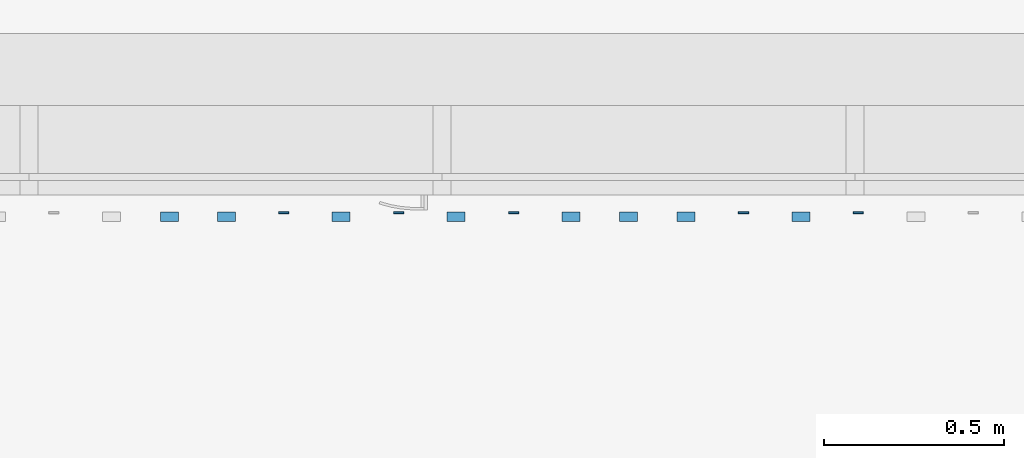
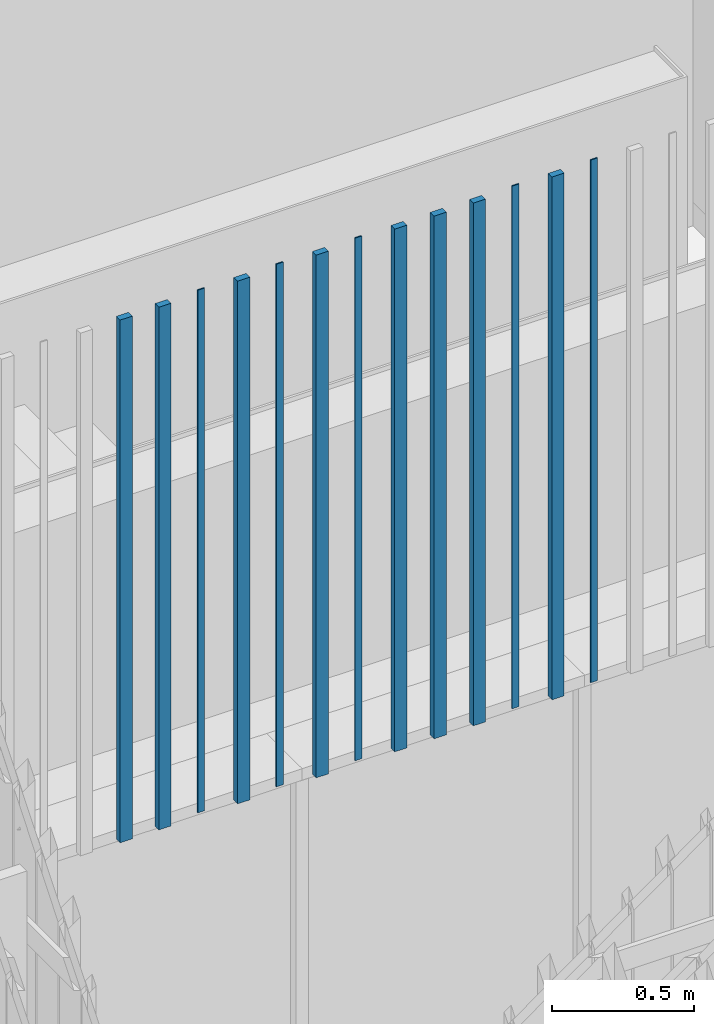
# One storey, part 149 of 390: 13 walls.
"""IFC2X3 building model written with IfcOpenShell, lengths in millimetres."""

import ifcopenshell
import ifcopenshell.guid

model = None  # the IFC model being written
_history = None  # IfcOwnerHistory: only IFC2X3 demands one
_inside = {}  # id of a spatial element -> (the spatial element, [elements in it])
_under = {}  # id of a project, library or spatial element -> (it, [spatial elements below it])
_declared = {}  # id of a project -> (the project, [libraries it declares])
_typed = {}  # id of a type object -> (the type object, [elements of that type])
_made_of = {}  # id of a material, layer set ... -> (it, [elements and type objects made of it])


def new_model(schema):
    """Start an empty IFC model of exactly this schema.

    Asked for "IFC4X3", IfcOpenShell would pick the latest addendum, in which some entities
    have other attributes; the version numbers below select the first issue.
    IFC2X3 requires an IfcOwnerHistory on every rooted entity: one is made here for all.
    """
    global model, _history
    if schema == "IFC4X3":
        model = ifcopenshell.file(schema_version=(4, 3, 0, 0))
    else:
        model = ifcopenshell.file(schema=schema)
    _inside.clear()
    _under.clear()
    _declared.clear()
    _typed.clear()
    _made_of.clear()
    _history = None
    if model.schema == "IFC2X3":
        org = make("IfcOrganization", Name="unknown")
        user = make(
            "IfcPersonAndOrganization",
            ThePerson=make("IfcPerson", FamilyName="unknown"),
            TheOrganization=org,
        )
        app = make(
            "IfcApplication",
            ApplicationDeveloper=org,
            Version="unknown",
            ApplicationFullName="unknown",
            ApplicationIdentifier="unknown",
        )
        _history = make(
            "IfcOwnerHistory",
            OwningUser=user,
            OwningApplication=app,
            ChangeAction="ADDED",
            CreationDate=0,
        )
    return model


def make(cls, **values):
    """One entity of the class cls with the attributes given. An attribute that is None is left unset."""
    return model.create_entity(
        cls, **{name: value for name, value in values.items() if value is not None}
    )


def entity(cls, *values):
    """Any entity or typed value of the class cls, its attributes in the order of the schema. None: left unset."""
    e = model.create_entity(cls)
    for i, value in enumerate(values):
        if value is not None:
            e[i] = value
    return e


def rooted(cls, **values):
    """An entity with a GlobalId (a new one), such as an element, a storey or a relation."""
    return make(cls, GlobalId=ifcopenshell.guid.new(), OwnerHistory=_history, **values)


def si_unit(unit_type, name, prefix=None):
    """IfcSIUnit, for example si_unit("LENGTHUNIT", "METRE", prefix="MILLI")."""
    return make("IfcSIUnit", UnitType=unit_type, Prefix=prefix, Name=name)


def converted_unit(unit_type, name, factor, base, dimensions=None, offset=None):
    """IfcConversionBasedUnit, such as the inch: factor (a typed value) times the base unit."""
    return make(
        "IfcConversionBasedUnit"
        if offset is None
        else "IfcConversionBasedUnitWithOffset",
        ConversionOffset=offset,
        Dimensions=None
        if dimensions is None
        else entity("IfcDimensionalExponents", *dimensions),
        UnitType=unit_type,
        Name=name,
        ConversionFactor=make(
            "IfcMeasureWithUnit", ValueComponent=factor, UnitComponent=base
        ),
    )


def derived_unit(unit_type, elements):
    """IfcDerivedUnit: a product of units, each with its exponent."""
    return make(
        "IfcDerivedUnit",
        Elements=[
            make("IfcDerivedUnitElement", Unit=unit, Exponent=power)
            for unit, power in elements
        ],
        UnitType=unit_type,
    )


def money_unit(currency):
    """IfcMonetaryUnit."""
    return make("IfcMonetaryUnit", Currency=currency)


def assignment(units):
    """IfcUnitAssignment: the units of a project."""
    return None if units is None else make("IfcUnitAssignment", Units=units)


def point(xyz):
    """IfcCartesianPoint."""
    return None if xyz is None else make("IfcCartesianPoint", Coordinates=xyz)


def direction(xyz):
    """IfcDirection."""
    return None if xyz is None else make("IfcDirection", DirectionRatios=xyz)


def frame(location, z_axis=None, x_axis=None):
    """IfcAxis2Placement3D, a coordinate frame: its origin and axes. An axis left out is left unset."""
    return make(
        "IfcAxis2Placement3D",
        Location=point(location),
        Axis=direction(z_axis),
        RefDirection=direction(x_axis),
    )


def origin_with_axes():
    """The frame at (0, 0, 0) with the z axis (0, 0, 1) and the x axis (1, 0, 0) written out."""
    return frame((0.0, 0.0, 0.0), z_axis=(0.0, 0.0, 1.0), x_axis=(1.0, 0.0, 0.0))


def place(relative_to, where):
    """IfcLocalPlacement: puts the frame where relative to a parent placement (None: the world)."""
    return make(
        "IfcLocalPlacement", PlacementRelTo=relative_to, RelativePlacement=where
    )


def context(
    kind, dimensions, precision=None, world=None, true_north=None, identifier=None
):
    """IfcGeometricRepresentationContext, for example the 3D "Model" context."""
    return make(
        "IfcGeometricRepresentationContext",
        ContextIdentifier=identifier,
        ContextType=kind,
        CoordinateSpaceDimension=dimensions,
        Precision=precision,
        WorldCoordinateSystem=world,
        TrueNorth=true_north,
    )


def subcontext(parent, identifier, kind, view, scale=None):
    """IfcGeometricRepresentationSubContext, for example "Body" below "Model"."""
    return make(
        "IfcGeometricRepresentationSubContext",
        ContextIdentifier=identifier,
        ContextType=kind,
        ParentContext=parent,
        TargetScale=scale,
        TargetView=view,
    )


def project(units=None, contexts=None):
    """IfcProject with its units and contexts."""
    return rooted(
        "IfcProject",
        Name="project",
        RepresentationContexts=contexts,
        UnitsInContext=assignment(units),
    )


def spatial(cls, under=None, at=None, **own):
    """A site, building, storey or space (cls), placed at a placement, below another one or the project."""
    s = rooted(cls, ObjectPlacement=at, **own)
    if under is not None:
        _under.setdefault(under.id(), (under, []))[1].append(s)
    return s


def faces_of(points, faces, orient=None, outer=None):
    """IfcFace entities. A face is a list of loops; a loop is a list of indices into points, from 0.

    orient and outer hold one flag for each loop. By default every Orientation is true, the
    first loop of a face is its IfcFaceOuterBound and the others are IfcFaceBound.
    """
    made = []
    for i, loops in enumerate(faces):
        bounds = []
        for j, loop in enumerate(loops):
            is_outer = j == 0 if outer is None else outer[i][j]
            bounds.append(
                make(
                    "IfcFaceOuterBound" if is_outer else "IfcFaceBound",
                    Bound=make("IfcPolyLoop", Polygon=[points[k] for k in loop]),
                    Orientation=True if orient is None else orient[i][j],
                )
            )
        made.append(make("IfcFace", Bounds=bounds))
    return made


def faceted_brep(points, faces, orient=None, outer=None, voids=None):
    """IfcFacetedBrep: a solid bounded by flat faces; with voids (closed shells), ...WithVoids."""
    shared = [point(p) for p in points]
    hull = make("IfcClosedShell", CfsFaces=faces_of(shared, faces, orient, outer))
    if voids is None:
        return make("IfcFacetedBrep", Outer=hull)
    return make(
        "IfcFacetedBrepWithVoids",
        Outer=hull,
        Voids=[
            make(cls, CfsFaces=faces_of(shared, fs, o, b)) for cls, fs, o, b in voids
        ],
    )


def shape(context_of_items, identifier, shape_type, items):
    """IfcShapeRepresentation: the items that make up one representation, for example the "Body"."""
    return make(
        "IfcShapeRepresentation",
        ContextOfItems=context_of_items,
        RepresentationIdentifier=identifier,
        RepresentationType=shape_type,
        Items=items,
    )


def material(Name=None, Category=None):
    """IfcMaterial."""
    return make("IfcMaterial", Name=Name, Category=Category)


def made_of(thing, what):
    """Note that an element or type object is made of a material, layer set ...; save() writes the relation."""
    if what is not None:
        _made_of.setdefault(what.id(), (what, []))[1].append(thing)
    return thing


def type_object(cls, material=None, **own):
    """A type object (cls), such as IfcWallType, which elements share."""
    return made_of(rooted(cls, **own), material)


def element(
    cls,
    number,
    at=None,
    inside=None,
    cuts=None,
    type_object=None,
    material=None,
    context=None,
    identifier="Body",
    shape_type=None,
    held_by="IfcProductDefinitionShape",
    body=None,
    shapes=None,
    **own,
):
    """One element of the class cls, such as IfcWall. Its Tag is "e" and its number.

    at: its placement. inside: the storey or other place that contains it. cuts: it is an
    opening in that element (IfcRelVoidsElement). A single representation is given by context,
    identifier, shape_type and body (its items); several are given by shapes. held_by: the class
    of the entity that holds the representations. save() writes the other relations.
    """
    e = rooted(cls, Tag="e%d" % number, ObjectPlacement=at, **own)
    if body is not None:
        shapes = [shape(context, identifier, shape_type, body)]
    if shapes is not None:
        e.Representation = make(held_by, Representations=shapes)
    if inside is not None:
        _inside.setdefault(inside.id(), (inside, []))[1].append(e)
    if cuts is not None:
        rooted(
            "IfcRelVoidsElement", RelatingBuildingElement=cuts, RelatedOpeningElement=e
        )
    if type_object is not None:
        _typed.setdefault(type_object.id(), (type_object, []))[1].append(e)
    return made_of(e, material)


def aggregate(whole, parts):
    """IfcRelAggregates: a whole, such as a stair, and the parts it consists of."""
    return rooted("IfcRelAggregates", RelatingObject=whole, RelatedObjects=parts)


def save(model, path):
    """Write the relations noted so far, then the file.

    IfcRelAggregates (storeys below a building ...), IfcRelContainedInSpatialStructure (elements
    in a storey), IfcRelDefinesByType, IfcRelAssociatesMaterial and IfcRelDeclares: one each for
    every whole, place, type object, material and project.
    """
    for whole, parts in _under.values():
        aggregate(whole, parts)
    for where, things in _inside.values():
        rooted(
            "IfcRelContainedInSpatialStructure",
            RelatedElements=things,
            RelatingStructure=where,
        )
    for kind, things in _typed.values():
        rooted("IfcRelDefinesByType", RelatedObjects=things, RelatingType=kind)
    for what, things in _made_of.values():
        rooted("IfcRelAssociatesMaterial", RelatedObjects=things, RelatingMaterial=what)
    for by, libraries in _declared.values():
        rooted("IfcRelDeclares", RelatingContext=by, RelatedDefinitions=libraries)
    model.write(path)


model = new_model("IFC2X3")

# Units and contexts
model_context = context("Model", 3, precision=1e-05, world=origin_with_axes(), true_north=direction((0.0, 1.0)))
body_context = subcontext(model_context, "Body", "Model", "MODEL_VIEW")
ifc_project = project(units=[si_unit("LENGTHUNIT", "METRE", prefix="MILLI"), si_unit("AREAUNIT", "SQUARE_METRE"), si_unit("VOLUMEUNIT", "CUBIC_METRE"), converted_unit("PLANEANGLEUNIT", "DEGREE", entity("IfcPlaneAngleMeasure", 0.0174532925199), si_unit("PLANEANGLEUNIT", "RADIAN"), dimensions=[0, 0, 0, 0, 0, 0, 0]), si_unit("SOLIDANGLEUNIT", "STERADIAN"), money_unit("EUR"), converted_unit("TIMEUNIT", "Year", entity("IfcTimeMeasure", 31556926.0), si_unit("TIMEUNIT", "SECOND"), dimensions=[0, 0, 1, 0, 0, 0, 0]), si_unit("MASSUNIT", "GRAM", prefix="KILO"), si_unit("THERMODYNAMICTEMPERATUREUNIT", "DEGREE_CELSIUS"), si_unit("LUMINOUSINTENSITYUNIT", "LUMEN"), si_unit("ENERGYUNIT", "JOULE", prefix="MEGA"), derived_unit("THERMALCONDUCTANCEUNIT", [(si_unit("POWERUNIT", "WATT"), 1), (si_unit("LENGTHUNIT", "METRE"), -1), (si_unit("THERMODYNAMICTEMPERATUREUNIT", "KELVIN"), -1)]), derived_unit("SPECIFICHEATCAPACITYUNIT", [(si_unit("ENERGYUNIT", "JOULE"), 1), (si_unit("MASSUNIT", "GRAM", prefix="KILO"), -1), (si_unit("THERMODYNAMICTEMPERATUREUNIT", "KELVIN"), -1)]), derived_unit("MASSDENSITYUNIT", [(si_unit("MASSUNIT", "GRAM", prefix="KILO"), 1), (si_unit("VOLUMEUNIT", "CUBIC_METRE"), -1)])], contexts=[model_context])

# Site, building, storey
site_placement = place(None, origin_with_axes())
site = spatial("IfcSite", under=ifc_project, at=site_placement, Name="Site", CompositionType="ELEMENT")
building_placement = place(site_placement, origin_with_axes())
building = spatial("IfcBuilding", under=site, at=building_placement, Name="Building", CompositionType="ELEMENT")
storey_placement = place(building_placement, origin_with_axes())
storey = spatial("IfcBuildingStorey", under=building, at=storey_placement, Name="1 korrus", CompositionType="ELEMENT", Elevation=0.0)

# Walls
ifc_material = material(Name="Site specified")
wall_type = type_object("IfcWallType", Name="Puitfassaadi ribistik", PredefinedType="NOTDEFINED")
wall_1_placement = place(storey_placement, frame((130230.999994, 45260.9999311, 7614.99996126), z_axis=(0.0, 0.0, 1.0), x_axis=(-1.0, 0.0, 0.0)))
element("IfcWall", 1, at=wall_1_placement, inside=storey, type_object=wall_type, material=ifc_material, Name="Site specified", context=body_context, shape_type="Brep", body=[
    faceted_brep([(-25.0, 25.0, 0.0), (-25.0, -2.00007931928, 0.0), (-25.0, -2.00007733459, 2250.00003874), (-25.0, 25.0, 2250.00003874), (25.0, 25.0, 0.0), (25.0, -2.00007931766, 0.0), (25.0, -2.00007733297, 2250.00003874), (25.0, 25.0, 2250.00003874)], [[[0, 1, 2, 3]], [[4, 5, 1, 0]], [[6, 2, 1, 5]], [[3, 2, 6, 7]], [[3, 7, 4, 0]], [[6, 5, 4, 7]]]),
])
wall_2_placement = place(storey_placement, frame((130388.999994, 45261.000011, 7614.99996126), z_axis=(0.0, 0.0, 1.0), x_axis=(-1.0, 0.0, 0.0)))
element("IfcWall", 2, at=wall_2_placement, inside=storey, type_object=wall_type, material=ifc_material, Name="Site specified", context=body_context, shape_type="Brep", body=[
    faceted_brep([(-25.0, 25.0, 0.0), (-25.0, -1.99999939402, 0.0), (-25.0, -1.99999740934, 2250.00003874), (-25.0, 25.0, 2250.00003874), (25.0, 25.0, 0.0), (25.0, -1.99999939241, 0.0), (25.0, -1.99999740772, 2250.00003874), (25.0, 25.0, 2250.00003874)], [[[0, 1, 2, 3]], [[4, 5, 1, 0]], [[6, 2, 1, 5]], [[3, 2, 6, 7]], [[3, 7, 4, 0]], [[6, 5, 4, 7]]]),
])
wall_3_placement = place(storey_placement, frame((130708.999994, 45261.000011, 7614.99996126), z_axis=(0.0, 0.0, 1.0), x_axis=(-1.0, 0.0, 0.0)))
element("IfcWall", 3, at=wall_3_placement, inside=storey, type_object=wall_type, material=ifc_material, Name="Site specified", context=body_context, shape_type="Brep", body=[
    faceted_brep([(-25.0, 25.0, 0.0), (-25.0, -1.99999939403, 0.0), (-25.0, -1.99999740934, 2250.00003874), (-25.0, 25.0, 2250.00003874), (25.0, 25.0, 0.0), (25.0, -1.99999939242, 0.0), (25.0, -1.99999740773, 2250.00003874), (25.0, 25.0, 2250.00003874)], [[[0, 1, 2, 3]], [[4, 5, 1, 0]], [[6, 2, 1, 5]], [[3, 2, 6, 7]], [[3, 7, 4, 0]], [[6, 5, 4, 7]]]),
])
wall_4_placement = place(storey_placement, frame((132148.999994, 45272.0000185, 7614.99996126), z_axis=(0.0, 0.0, 1.0), x_axis=(-1.0, 0.0, 0.0)))
element("IfcWall", 4, at=wall_4_placement, inside=storey, type_object=wall_type, material=ifc_material, Name="Site specified", context=body_context, shape_type="Brep", body=[
    faceted_brep([(-14.0, 14.0, 0.0), (-14.0, 9.00000810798, 0.0), (-14.0, 9.00001009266, 2250.00003874), (-14.0, 14.0, 2250.00003874), (14.0, 14.0, 0.0), (14.0, 9.00000810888, 0.0), (14.0, 9.00001009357, 2250.00003874), (14.0, 14.0, 2250.00003874)], [[[0, 1, 2, 3]], [[4, 5, 1, 0]], [[6, 2, 1, 5]], [[3, 2, 6, 7]], [[3, 7, 4, 0]], [[6, 5, 4, 7]]]),
])
for number, where, z_axis, x_axis, name in (
    (5, (131828.999994, 45272.0000185, 7614.99996126), (0.0, 0.0, 1.0), (-1.0, 0.0, 0.0), "Site specified"),
    (6, (131188.999994, 45272.0000185, 7614.99996126), (0.0, 0.0, 1.0), (-1.0, 0.0, 0.0), "Site specified"),
):
    element("IfcWall", number, at=place(storey_placement, frame(where, z_axis=z_axis, x_axis=x_axis)), inside=storey, type_object=wall_type, material=ifc_material, Name=name, context=body_context, shape_type="Brep", body=[
        faceted_brep([(-14.0, 14.0, 0.0), (-14.0, 9.00000810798, 0.0), (-14.0, 9.00001009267, 2250.00003874), (-14.0, 14.0, 2250.00003874), (14.0, 14.0, 0.0), (14.0, 9.00000810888, 0.0), (14.0, 9.00001009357, 2250.00003874), (14.0, 14.0, 2250.00003874)], [[[0, 1, 2, 3]], [[4, 5, 1, 0]], [[6, 2, 1, 5]], [[3, 2, 6, 7]], [[3, 7, 4, 0]], [[6, 5, 4, 7]]]),
    ])
wall_5_placement = place(storey_placement, frame((130548.999994, 45272.000011, 7614.99996126), z_axis=(0.0, 0.0, 1.0), x_axis=(-1.0, 0.0, 0.0)))
element("IfcWall", 7, at=wall_5_placement, inside=storey, type_object=wall_type, material=ifc_material, Name="Site specified", context=body_context, shape_type="Brep", body=[
    faceted_brep([(-14.0, 14.0, 0.0), (-14.0, 9.00000060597, 0.0), (-14.0, 9.00000259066, 2250.00003874), (-14.0, 14.0, 2250.00003874), (14.0, 14.0, 0.0), (14.0, 9.00000060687, 0.0), (14.0, 9.00000259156, 2250.00003874), (14.0, 14.0, 2250.00003874)], [[[0, 1, 2, 3]], [[4, 5, 1, 0]], [[6, 2, 1, 5]], [[3, 2, 6, 7]], [[3, 7, 4, 0]], [[6, 5, 4, 7]]]),
])
wall_6_placement = place(storey_placement, frame((130868.999994, 45272.000011, 7614.99996126), z_axis=(0.0, 0.0, 1.0), x_axis=(-1.0, 0.0, 0.0)))
element("IfcWall", 8, at=wall_6_placement, inside=storey, type_object=wall_type, material=ifc_material, Name="Site specified", context=body_context, shape_type="Brep", body=[
    faceted_brep([(-14.0, 14.0, 0.0), (-14.0, 9.00000060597, 0.0), (-14.0, 9.00000259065, 2250.00003874), (-14.0, 14.0, 2250.00003874), (14.0, 14.0, 0.0), (14.0, 9.00000060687, 0.0), (14.0, 9.00000259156, 2250.00003874), (14.0, 14.0, 2250.00003874)], [[[0, 1, 2, 3]], [[4, 5, 1, 0]], [[6, 2, 1, 5]], [[3, 2, 6, 7]], [[3, 7, 4, 0]], [[6, 5, 4, 7]]]),
])
wall_7_placement = place(storey_placement, frame((131028.999994, 45260.9999611, 7614.99996126), z_axis=(0.0, 0.0, 1.0), x_axis=(-1.0, 0.0, 0.0)))
element("IfcWall", 9, at=wall_7_placement, inside=storey, type_object=wall_type, material=ifc_material, Name="Site specified", context=body_context, shape_type="Brep", body=[
    faceted_brep([(-25.0, 25.0, 0.0), (-25.0, -2.00004931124, 0.0), (-25.0, -2.00004732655, 2250.00003874), (-25.0, 25.0, 2250.00003874), (25.0, 25.0, 0.0), (25.0, -2.00004930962, 0.0), (25.0, -2.00004732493, 2250.00003874), (25.0, 25.0, 2250.00003874)], [[[0, 1, 2, 3]], [[4, 5, 1, 0]], [[6, 2, 1, 5]], [[3, 2, 6, 7]], [[3, 7, 4, 0]], [[6, 5, 4, 7]]]),
])
wall_8_placement = place(storey_placement, frame((131348.999994, 45260.9999686, 7614.99996126), z_axis=(0.0, 0.0, 1.0), x_axis=(-1.0, 0.0, 0.0)))
element("IfcWall", 10, at=wall_8_placement, inside=storey, type_object=wall_type, material=ifc_material, Name="Site specified", context=body_context, shape_type="Brep", body=[
    faceted_brep([(-25.0, 25.0, 0.0), (-25.0, -2.00004180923, 0.0), (-25.0, -2.00003982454, 2250.00003874), (-25.0, 25.0, 2250.00003874), (25.0, 25.0, 0.0), (25.0, -2.00004180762, 0.0), (25.0, -2.00003982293, 2250.00003874), (25.0, 25.0, 2250.00003874)], [[[0, 1, 2, 3]], [[4, 5, 1, 0]], [[6, 2, 1, 5]], [[3, 2, 6, 7]], [[3, 7, 4, 0]], [[6, 5, 4, 7]]]),
])
for number, where, z_axis, x_axis, name in (
    (11, (131508.999994, 45261.0000185, 7614.99996126), (0.0, 0.0, 1.0), (-1.0, 0.0, 0.0), "Site specified"),
    (12, (131668.999994, 45261.0000185, 7614.99996126), (0.0, 0.0, 1.0), (-1.0, 0.0, 0.0), "Site specified"),
):
    element("IfcWall", number, at=place(storey_placement, frame(where, z_axis=z_axis, x_axis=x_axis)), inside=storey, type_object=wall_type, material=ifc_material, Name=name, context=body_context, shape_type="Brep", body=[
        faceted_brep([(-25.0, 25.0, 0.0), (-25.0, -1.99999189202, 0.0), (-25.0, -1.99998990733, 2250.00003874), (-25.0, 25.0, 2250.00003874), (25.0, 25.0, 0.0), (25.0, -1.9999918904, 0.0), (25.0, -1.99998990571, 2250.00003874), (25.0, 25.0, 2250.00003874)], [[[0, 1, 2, 3]], [[4, 5, 1, 0]], [[6, 2, 1, 5]], [[3, 2, 6, 7]], [[3, 7, 4, 0]], [[6, 5, 4, 7]]]),
    ])
wall_9_placement = place(storey_placement, frame((131988.999994, 45261.0000185, 7614.99996126), z_axis=(0.0, 0.0, 1.0), x_axis=(-1.0, 0.0, 0.0)))
element("IfcWall", 13, at=wall_9_placement, inside=storey, type_object=wall_type, material=ifc_material, Name="Site specified", context=body_context, shape_type="Brep", body=[
    faceted_brep([(-25.0, 25.0, 0.0), (-25.0, -1.99999189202, 0.0), (-25.0, -1.99998990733, 2250.00003874), (-25.0, 25.0, 2250.00003874), (25.0, 25.0, 0.0), (25.0, -1.99999189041, 0.0), (25.0, -1.99998990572, 2250.00003874), (25.0, 25.0, 2250.00003874)], [[[0, 1, 2, 3]], [[4, 5, 1, 0]], [[6, 2, 1, 5]], [[3, 2, 6, 7]], [[3, 7, 4, 0]], [[6, 5, 4, 7]]]),
])

save(model, "model.ifc")
